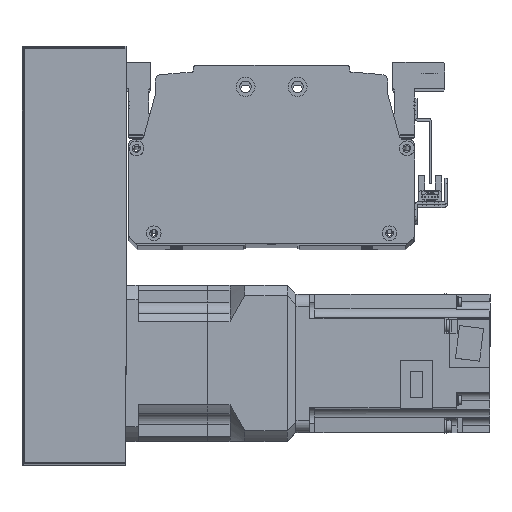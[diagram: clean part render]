
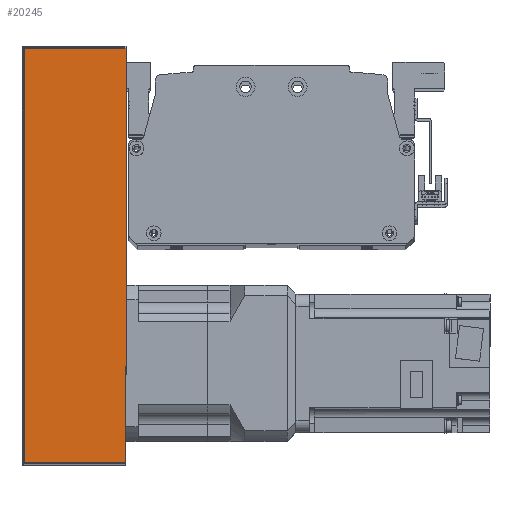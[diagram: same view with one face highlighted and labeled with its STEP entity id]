
A CAD part, top view. The second image highlights one B-rep face of the part: STEP entity #20245.
In plain terms, the highlighted planar face has unit normal (0, 0, 1) as drawn and (0, 1, 0) by its records, which use the part's own axes.
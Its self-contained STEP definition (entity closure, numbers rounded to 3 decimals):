
#599=PLANE('',#22099);
#1727=LINE('',#32565,#3387);
#1749=LINE('',#32658,#3409);
#1751=LINE('',#32668,#3411);
#1753=LINE('',#32671,#3413);
#3387=VECTOR('',#26368,10.);
#3409=VECTOR('',#26488,10.);
#3411=VECTOR('',#26502,10.);
#3413=VECTOR('',#26506,10.);
#5432=FACE_OUTER_BOUND('',#6896,.T.);
#6896=EDGE_LOOP('',(#16442,#16443,#16444,#16445));
#9802=VERTEX_POINT('',#32562);
#9803=VERTEX_POINT('',#32564);
#9824=VERTEX_POINT('',#32652);
#9827=VERTEX_POINT('',#32664);
#12180=EDGE_CURVE('',#9802,#9803,#1727,.T.);
#12228=EDGE_CURVE('',#9824,#9802,#1749,.T.);
#12233=EDGE_CURVE('',#9803,#9827,#1751,.T.);
#12235=EDGE_CURVE('',#9827,#9824,#1753,.T.);
#16442=ORIENTED_EDGE('',*,*,#12228,.F.);
#16443=ORIENTED_EDGE('',*,*,#12235,.F.);
#16444=ORIENTED_EDGE('',*,*,#12233,.F.);
#16445=ORIENTED_EDGE('',*,*,#12180,.F.);
#20245=ADVANCED_FACE('',(#5432),#599,.T.);
#22099=AXIS2_PLACEMENT_3D('',#32677,#26514,#26515);
#26368=DIRECTION('',(-1.,0.,0.));
#26488=DIRECTION('',(0.,0.,1.));
#26502=DIRECTION('',(0.,0.,-1.));
#26506=DIRECTION('',(1.,0.,0.));
#26514=DIRECTION('center_axis',(0.,1.,0.));
#26515=DIRECTION('ref_axis',(-1.,0.,0.));
#32562=CARTESIAN_POINT('',(120.,51.,30.));
#32564=CARTESIAN_POINT('',(-120.,51.,30.));
#32565=CARTESIAN_POINT('',(-121.,51.,30.));
#32652=CARTESIAN_POINT('',(120.,51.,-29.));
#32658=CARTESIAN_POINT('',(120.,51.,0.));
#32664=CARTESIAN_POINT('',(-120.,51.,-29.));
#32668=CARTESIAN_POINT('',(-120.,51.,0.));
#32671=CARTESIAN_POINT('',(60.5,51.,-29.));
#32677=CARTESIAN_POINT('Origin',(121.,51.,0.));
